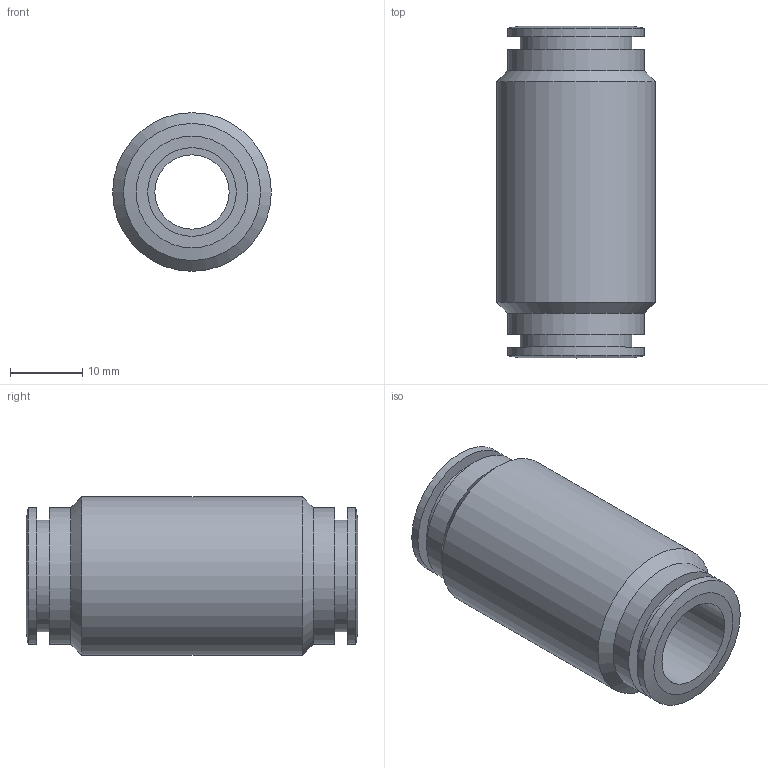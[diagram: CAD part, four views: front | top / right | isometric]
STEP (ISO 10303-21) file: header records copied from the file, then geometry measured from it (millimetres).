
FILE_DESCRIPTION((''),'2;1');
FILE_NAME('C:\Documents and Settings\rivolro1\Documenti\copia di Raccordi\PLASTICA\T10XX00\T101200.stp','2007-10-30T17:28:47',('Rivolro1'),(''),'Autodesk Inventor 2008','Autodesk Inventor 2008','');
FILE_SCHEMA(('AUTOMOTIVE_DESIGN { 1 0 10303 214 1 1 1 1 }'));
Length unit declared in the file: millimetre
Products named in the file (1): T101200
Bounding box: 22 x 46 x 22 mm (x, y, z)
Volume: 10491.4 mm3; surface area: 5583.7 mm2
Topology: 1 solids, 1 shells, 22 faces, 37 edges, 23 vertices
Faces by surface type: cylinder 8, plane 6, bspline 4, cone 4
Full cylindrical faces by diameter (mm): 10.3 x1, 15.5 x2, 19 x4, 22 x1
Entity records: 523 total; most frequent: CARTESIAN_POINT 107, DIRECTION 82, ORIENTED_EDGE 44, EDGE_LOOP 44, AXIS2_PLACEMENT_3D 41, VERTEX_POINT 22, CIRCLE 22, EDGE_CURVE 22
